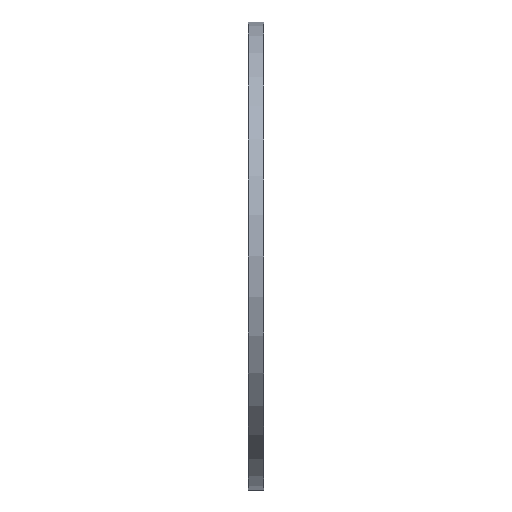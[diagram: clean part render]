
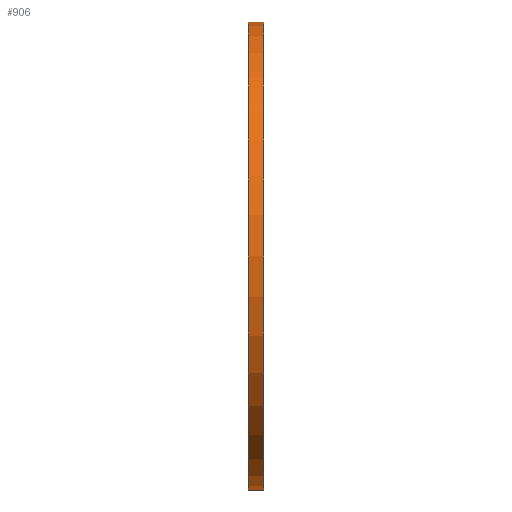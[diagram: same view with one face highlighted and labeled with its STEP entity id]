
A CAD part, left-side view. The second image highlights one B-rep face of the part: STEP entity #906.
In plain terms, the highlighted cylindrical face has radius 305 mm (diameter 610 mm), a partial arc.
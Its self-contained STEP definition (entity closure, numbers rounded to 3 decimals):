
#2 = AXIS2_PLACEMENT_3D ( 'NONE', #1307, #1301, #620 ) ;
#31 = ORIENTED_EDGE ( 'NONE', *, *, #586, .F. ) ;
#66 = DIRECTION ( 'NONE',  ( 0., -1., 0. ) ) ;
#75 = CARTESIAN_POINT ( 'NONE',  ( 0., 0., 305. ) ) ;
#146 = VERTEX_POINT ( 'NONE', #1233 ) ;
#231 = LINE ( 'NONE', #1372, #1417 ) ;
#234 = VERTEX_POINT ( 'NONE', #1042 ) ;
#267 = AXIS2_PLACEMENT_3D ( 'NONE', #1430, #66, #993 ) ;
#276 = EDGE_LOOP ( 'NONE', ( #31, #678, #1364, #368 ) ) ;
#303 = CARTESIAN_POINT ( 'NONE',  ( 0., 20., 0. ) ) ;
#348 = VERTEX_POINT ( 'NONE', #819 ) ;
#361 = CYLINDRICAL_SURFACE ( 'NONE', #2, 305. ) ;
#368 = ORIENTED_EDGE ( 'NONE', *, *, #422, .F. ) ;
#422 = EDGE_CURVE ( 'NONE', #880, #348, #1009, .T. ) ;
#502 = EDGE_CURVE ( 'NONE', #234, #146, #1287, .T. ) ;
#523 = LINE ( 'NONE', #75, #841 ) ;
#537 = DIRECTION ( 'NONE',  ( 0., 0., -1. ) ) ;
#586 = EDGE_CURVE ( 'NONE', #234, #880, #523, .T. ) ;
#620 = DIRECTION ( 'NONE',  ( 0., 0., -1. ) ) ;
#639 = CARTESIAN_POINT ( 'NONE',  ( 0., 0., 305. ) ) ;
#678 = ORIENTED_EDGE ( 'NONE', *, *, #502, .T. ) ;
#819 = CARTESIAN_POINT ( 'NONE',  ( 0., 0., -305. ) ) ;
#841 = VECTOR ( 'NONE', #1128, 1000. ) ;
#880 = VERTEX_POINT ( 'NONE', #639 ) ;
#883 = DIRECTION ( 'NONE',  ( 0., -1., 0. ) ) ;
#906 = ADVANCED_FACE ( 'NONE', ( #1015 ), #361, .T. ) ;
#993 = DIRECTION ( 'NONE',  ( 0., 0., -1. ) ) ;
#1009 = CIRCLE ( 'NONE', #267, 305. ) ;
#1015 = FACE_OUTER_BOUND ( 'NONE', #276, .T. ) ;
#1022 = EDGE_CURVE ( 'NONE', #146, #348, #231, .T. ) ;
#1042 = CARTESIAN_POINT ( 'NONE',  ( 0., 20., 305. ) ) ;
#1043 = AXIS2_PLACEMENT_3D ( 'NONE', #303, #883, #537 ) ;
#1128 = DIRECTION ( 'NONE',  ( 0., -1., 0. ) ) ;
#1233 = CARTESIAN_POINT ( 'NONE',  ( 0., 20., -305. ) ) ;
#1287 = CIRCLE ( 'NONE', #1043, 305. ) ;
#1301 = DIRECTION ( 'NONE',  ( 0., -1., 0. ) ) ;
#1307 = CARTESIAN_POINT ( 'NONE',  ( 0., 0., 0. ) ) ;
#1364 = ORIENTED_EDGE ( 'NONE', *, *, #1022, .T. ) ;
#1372 = CARTESIAN_POINT ( 'NONE',  ( 0., 0., -305. ) ) ;
#1417 = VECTOR ( 'NONE', #1465, 1000. ) ;
#1430 = CARTESIAN_POINT ( 'NONE',  ( 0., 0., 0. ) ) ;
#1465 = DIRECTION ( 'NONE',  ( 0., -1., 0. ) ) ;
